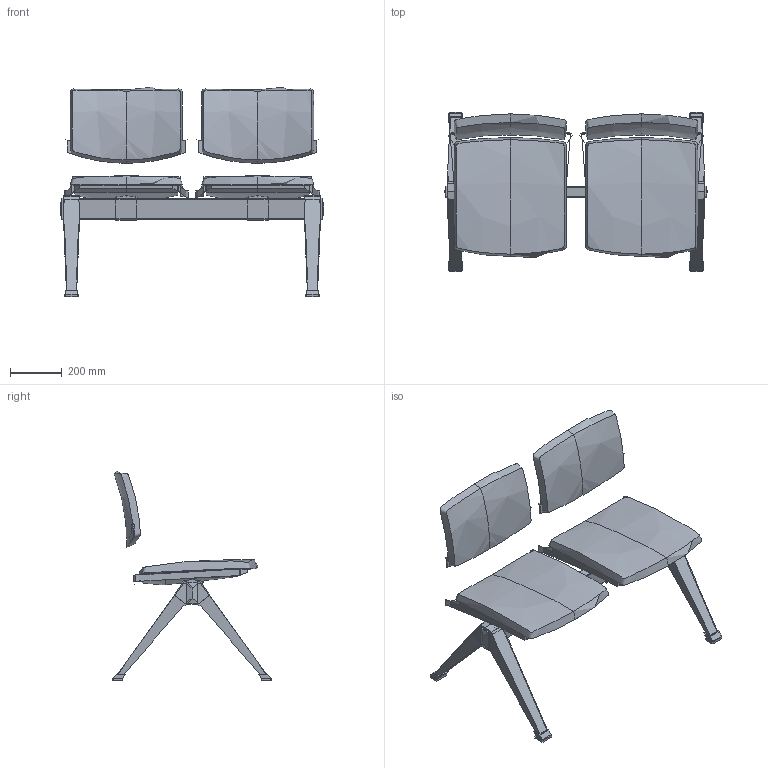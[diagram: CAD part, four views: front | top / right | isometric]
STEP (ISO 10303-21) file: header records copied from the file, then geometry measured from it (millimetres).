
FILE_DESCRIPTION(/* description */ (''),/* implementation_level */ '2;1');
FILE_NAME(/* name */ 'Seance 099-2',/* time_stamp */ '2020-03-26T13:57:07+01:00',/* author */ (''),/* organization */ (''),/* preprocessor_version */ 'ST-DEVELOPER v16.5',/* originating_system */ '',/* authorisation */ '');
FILE_SCHEMA (('AUTOMOTIVE_DESIGN'));
Length unit declared in the file: millimetre
Products named in the file (1): Document
Bounding box: 1020 x 620 x 812.42 mm (x, y, z)
Volume: 25378795.8 mm3; surface area: 2984966.6 mm2
Topology: 28 solids, 35 shells, 372 faces, 894 edges, 568 vertices
Faces by surface type: bspline 200, plane 172
Entity records: 14716 total; most frequent: CARTESIAN_POINT 8897, ORIENTED_EDGE 1664, EDGE_CURVE 872, B_SPLINE_CURVE_WITH_KNOTS 729, VERTEX_POINT 558, ADVANCED_FACE 372, FACE_OUTER_BOUND 372, EDGE_LOOP 372
